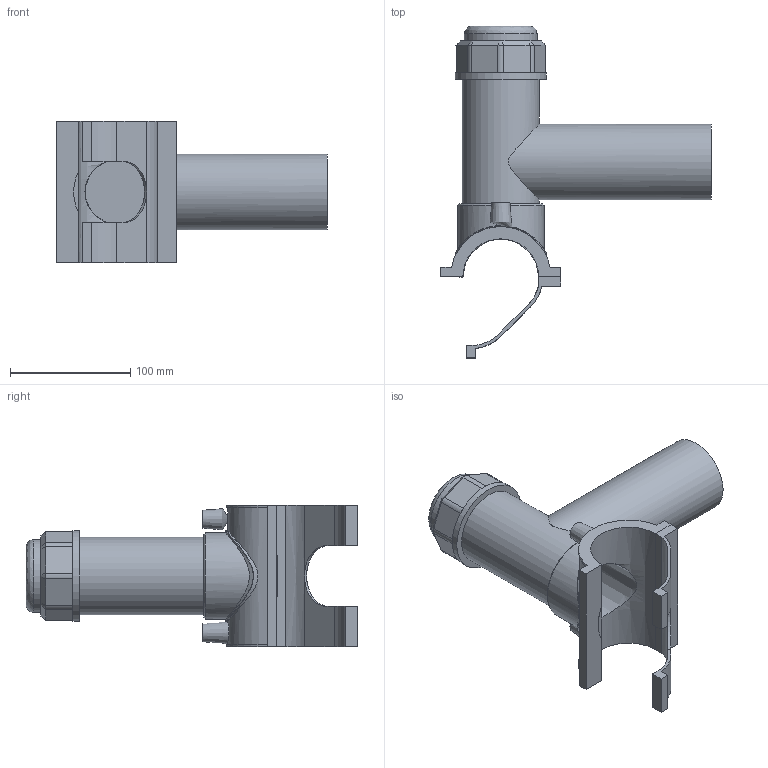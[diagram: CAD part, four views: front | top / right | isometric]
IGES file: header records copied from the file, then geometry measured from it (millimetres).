
Global section: file name: 496304063063.ipt; native system: Autodesk Inventor 2015; preprocessor: unknown; author: KIM; date: 20190124.130653; units: millimetre
Bounding box: 225 x 275.78 x 118 mm (x, y, z)
Volume: 645591 mm3; surface area: 173032.8 mm2
Topology: 3 solids, 3 shells, 106 faces, 251 edges, 164 vertices
Faces by surface type: plane 59, cylinder 25, cone 11, revolution 10, bspline 1
Full cylindrical faces by diameter (mm): 4 x2, 60.48 x1, 63 x1, 64.26 x1, 71.82 x1, 75.6 x2
